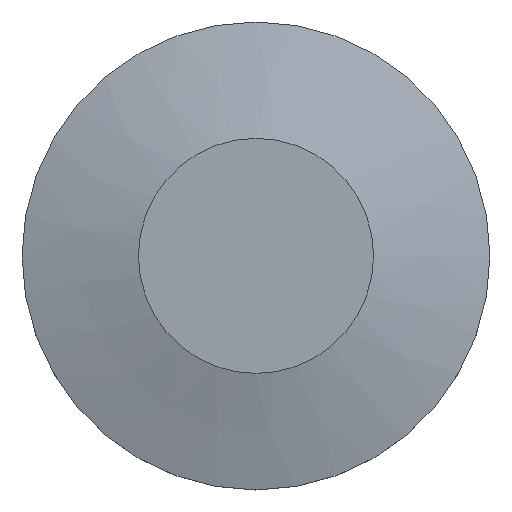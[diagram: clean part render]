
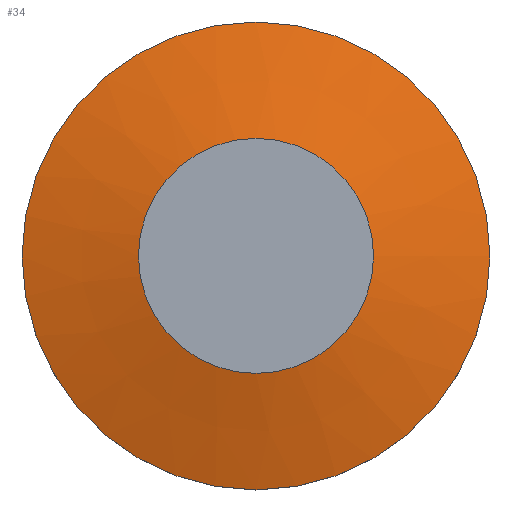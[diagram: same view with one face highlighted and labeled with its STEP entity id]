
A CAD part, top view. The second image highlights one B-rep face of the part: STEP entity #34.
In plain terms, the highlighted conical face has half-angle 75 degrees and reference radius 15 mm.
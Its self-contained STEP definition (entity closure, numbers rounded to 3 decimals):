
#34 = ADVANCED_FACE( '', ( #69, #70 ), #71, .T. );
#69 = FACE_BOUND( '', #106, .T. );
#70 = FACE_OUTER_BOUND( '', #107, .T. );
#71 = CONICAL_SURFACE( '', #108, 15., 1.309 );
#106 = EDGE_LOOP( '', ( #139 ) );
#107 = EDGE_LOOP( '', ( #140 ) );
#108 = AXIS2_PLACEMENT_3D( '', #141, #142, #143 );
#139 = ORIENTED_EDGE( '', *, *, #182, .F. );
#140 = ORIENTED_EDGE( '', *, *, #183, .T. );
#141 = CARTESIAN_POINT( '', ( 0., 0., 3. ) );
#142 = DIRECTION( '', ( 0., 0., -1. ) );
#143 = DIRECTION( '', ( -1., 0., 0. ) );
#182 = EDGE_CURVE( '', #199, #199, #200, .T. );
#183 = EDGE_CURVE( '', #201, #201, #202, .T. );
#199 = VERTEX_POINT( '', #221 );
#200 = CIRCLE( '', #222, 7.536 );
#201 = VERTEX_POINT( '', #223 );
#202 = CIRCLE( '', #224, 15. );
#221 = CARTESIAN_POINT( '', ( 7.536, 0., 5. ) );
#222 = AXIS2_PLACEMENT_3D( '', #243, #244, #245 );
#223 = CARTESIAN_POINT( '', ( 15., 0., 3. ) );
#224 = AXIS2_PLACEMENT_3D( '', #246, #247, #248 );
#243 = CARTESIAN_POINT( '', ( 0., 0., 5. ) );
#244 = DIRECTION( '', ( 0., 0., 1. ) );
#245 = DIRECTION( '', ( 1., 0., 0. ) );
#246 = CARTESIAN_POINT( '', ( 0., 0., 3. ) );
#247 = DIRECTION( '', ( 0., 0., 1. ) );
#248 = DIRECTION( '', ( 1., 0., 0. ) );
